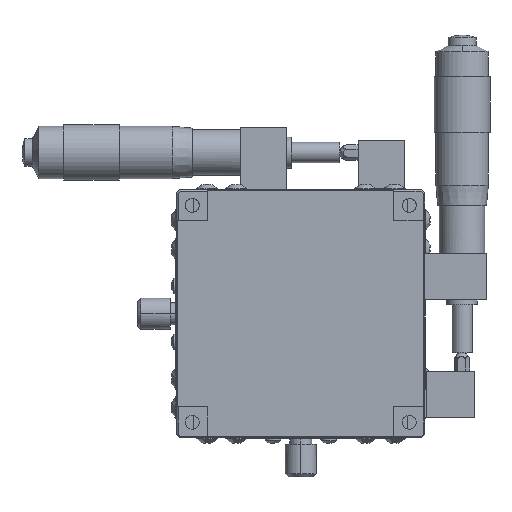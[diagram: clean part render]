
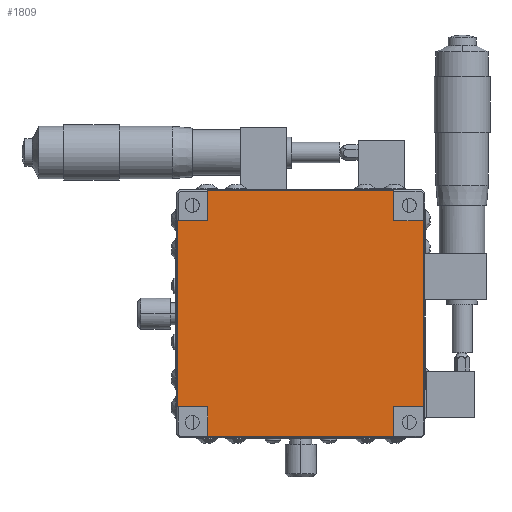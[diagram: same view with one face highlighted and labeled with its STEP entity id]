
A CAD part, front view. The second image highlights one B-rep face of the part: STEP entity #1809.
In plain terms, the highlighted planar face has unit normal (0, -1, 0).
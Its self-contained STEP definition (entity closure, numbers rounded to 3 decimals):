
#5 = VECTOR ( 'NONE', #16305, 1000. ) ;
#632 = VERTEX_POINT ( 'NONE', #6041 ) ;
#971 = CARTESIAN_POINT ( 'NONE',  ( -104.334, 14.719, -54.096 ) ) ;
#1540 = CARTESIAN_POINT ( 'NONE',  ( -104.334, 14.719, -54.096 ) ) ;
#1574 = VERTEX_POINT ( 'NONE', #16063 ) ;
#1699 = CARTESIAN_POINT ( 'NONE',  ( -104.334, 14.719, 5.904 ) ) ;
#1809 = ADVANCED_FACE ( 'NONE', ( #34643 ), #28716, .T. ) ;
#2577 = EDGE_CURVE ( 'NONE', #24614, #27254, #19207, .T. ) ;
#2659 = VERTEX_POINT ( 'NONE', #11489 ) ;
#2852 = ORIENTED_EDGE ( 'NONE', *, *, #18821, .T. ) ;
#3140 = VERTEX_POINT ( 'NONE', #14773 ) ;
#3721 = VECTOR ( 'NONE', #25117, 1000. ) ;
#3926 = DIRECTION ( 'NONE',  ( 1., 0., 0. ) ) ;
#4363 = ORIENTED_EDGE ( 'NONE', *, *, #37124, .T. ) ;
#4512 = EDGE_CURVE ( 'NONE', #23033, #32186, #35002, .T. ) ;
#4614 = LINE ( 'NONE', #15894, #12673 ) ;
#4744 = VECTOR ( 'NONE', #21874, 1000. ) ;
#5191 = EDGE_CURVE ( 'NONE', #32186, #24614, #34933, .T. ) ;
#5404 = CARTESIAN_POINT ( 'NONE',  ( -104.334, 14.719, 15.604 ) ) ;
#5477 = ORIENTED_EDGE ( 'NONE', *, *, #4512, .T. ) ;
#6041 = CARTESIAN_POINT ( 'NONE',  ( -174.034, 14.719, 5.904 ) ) ;
#6081 = VECTOR ( 'NONE', #14803, 1000. ) ;
#7585 = AXIS2_PLACEMENT_3D ( 'NONE', #8077, #8331, #11071 ) ;
#8077 = CARTESIAN_POINT ( 'NONE',  ( -104.334, 14.719, 24.412 ) ) ;
#8331 = DIRECTION ( 'NONE',  ( 0., -1., 0. ) ) ;
#8944 = CARTESIAN_POINT ( 'NONE',  ( -104.334, 14.719, -63.796 ) ) ;
#9551 = LINE ( 'NONE', #1699, #3721 ) ;
#9695 = DIRECTION ( 'NONE',  ( 0., 0., 1. ) ) ;
#10212 = ORIENTED_EDGE ( 'NONE', *, *, #24621, .T. ) ;
#11071 = DIRECTION ( 'NONE',  ( 0., 0., -1. ) ) ;
#11489 = CARTESIAN_POINT ( 'NONE',  ( -164.334, 14.719, -54.096 ) ) ;
#11616 = LINE ( 'NONE', #36108, #12509 ) ;
#11828 = DIRECTION ( 'NONE',  ( 0., 0., -1. ) ) ;
#12405 = CARTESIAN_POINT ( 'NONE',  ( -94.634, 14.719, -54.096 ) ) ;
#12489 = LINE ( 'NONE', #33606, #25238 ) ;
#12509 = VECTOR ( 'NONE', #36500, 1000. ) ;
#12643 = VECTOR ( 'NONE', #9695, 1000. ) ;
#12673 = VECTOR ( 'NONE', #30205, 1000. ) ;
#12912 = ORIENTED_EDGE ( 'NONE', *, *, #18765, .T. ) ;
#14773 = CARTESIAN_POINT ( 'NONE',  ( -174.034, 14.719, -54.096 ) ) ;
#14803 = DIRECTION ( 'NONE',  ( 0., 0., -1. ) ) ;
#14832 = CARTESIAN_POINT ( 'NONE',  ( -104.334, 14.719, -54.096 ) ) ;
#15014 = VECTOR ( 'NONE', #22038, 1000. ) ;
#15782 = CARTESIAN_POINT ( 'NONE',  ( -164.334, 14.719, 5.904 ) ) ;
#15894 = CARTESIAN_POINT ( 'NONE',  ( -104.334, 14.719, 5.904 ) ) ;
#16027 = LINE ( 'NONE', #35512, #6081 ) ;
#16041 = ORIENTED_EDGE ( 'NONE', *, *, #2577, .T. ) ;
#16063 = CARTESIAN_POINT ( 'NONE',  ( -164.334, 14.719, -63.796 ) ) ;
#16305 = DIRECTION ( 'NONE',  ( -1., 0., 0. ) ) ;
#16312 = ORIENTED_EDGE ( 'NONE', *, *, #22273, .T. ) ;
#17060 = VERTEX_POINT ( 'NONE', #1540 ) ;
#18330 = CARTESIAN_POINT ( 'NONE',  ( -94.634, 14.719, 24.412 ) ) ;
#18733 = EDGE_CURVE ( 'NONE', #632, #3140, #22982, .T. ) ;
#18765 = EDGE_CURVE ( 'NONE', #17060, #34452, #35732, .T. ) ;
#18821 = EDGE_CURVE ( 'NONE', #24151, #17060, #11616, .T. ) ;
#19207 = LINE ( 'NONE', #33390, #4744 ) ;
#19351 = VECTOR ( 'NONE', #11828, 1000. ) ;
#20961 = DIRECTION ( 'NONE',  ( 1., 0., 0. ) ) ;
#21296 = ORIENTED_EDGE ( 'NONE', *, *, #5191, .T. ) ;
#21557 = CARTESIAN_POINT ( 'NONE',  ( -104.334, 14.719, 5.904 ) ) ;
#21874 = DIRECTION ( 'NONE',  ( 0., 0., -1. ) ) ;
#22038 = DIRECTION ( 'NONE',  ( 0., 0., 1. ) ) ;
#22270 = CARTESIAN_POINT ( 'NONE',  ( -104.334, 14.719, 15.604 ) ) ;
#22273 = EDGE_CURVE ( 'NONE', #2659, #1574, #16027, .T. ) ;
#22454 = CARTESIAN_POINT ( 'NONE',  ( -94.634, 14.719, 5.904 ) ) ;
#22982 = LINE ( 'NONE', #29117, #19351 ) ;
#23033 = VERTEX_POINT ( 'NONE', #21557 ) ;
#23535 = EDGE_CURVE ( 'NONE', #3140, #2659, #29545, .T. ) ;
#24151 = VERTEX_POINT ( 'NONE', #8944 ) ;
#24245 = CARTESIAN_POINT ( 'NONE',  ( -164.334, 14.719, 15.604 ) ) ;
#24614 = VERTEX_POINT ( 'NONE', #24245 ) ;
#24621 = EDGE_CURVE ( 'NONE', #27254, #632, #4614, .T. ) ;
#25097 = DIRECTION ( 'NONE',  ( 1., 0., 0. ) ) ;
#25117 = DIRECTION ( 'NONE',  ( -1., 0., 0. ) ) ;
#25238 = VECTOR ( 'NONE', #25097, 1000. ) ;
#26180 = EDGE_CURVE ( 'NONE', #34452, #27665, #37691, .T. ) ;
#27254 = VERTEX_POINT ( 'NONE', #15782 ) ;
#27665 = VERTEX_POINT ( 'NONE', #22454 ) ;
#28716 = PLANE ( 'NONE',  #7585 ) ;
#29117 = CARTESIAN_POINT ( 'NONE',  ( -174.034, 14.719, 24.412 ) ) ;
#29545 = LINE ( 'NONE', #14832, #31354 ) ;
#30074 = ORIENTED_EDGE ( 'NONE', *, *, #23535, .T. ) ;
#30205 = DIRECTION ( 'NONE',  ( -1., 0., 0. ) ) ;
#30607 = ORIENTED_EDGE ( 'NONE', *, *, #18733, .T. ) ;
#31354 = VECTOR ( 'NONE', #20961, 1000. ) ;
#32186 = VERTEX_POINT ( 'NONE', #5404 ) ;
#32460 = EDGE_CURVE ( 'NONE', #1574, #24151, #12489, .T. ) ;
#32886 = EDGE_LOOP ( 'NONE', ( #16312, #35994, #2852, #12912, #35343, #4363, #5477, #21296, #16041, #10212, #30607, #30074 ) ) ;
#33316 = CARTESIAN_POINT ( 'NONE',  ( -104.334, 14.719, 24.412 ) ) ;
#33390 = CARTESIAN_POINT ( 'NONE',  ( -164.334, 14.719, 24.412 ) ) ;
#33606 = CARTESIAN_POINT ( 'NONE',  ( -104.334, 14.719, -63.796 ) ) ;
#33884 = VECTOR ( 'NONE', #3926, 1000. ) ;
#34452 = VERTEX_POINT ( 'NONE', #12405 ) ;
#34643 = FACE_OUTER_BOUND ( 'NONE', #32886, .T. ) ;
#34933 = LINE ( 'NONE', #22270, #5 ) ;
#35002 = LINE ( 'NONE', #33316, #15014 ) ;
#35343 = ORIENTED_EDGE ( 'NONE', *, *, #26180, .T. ) ;
#35512 = CARTESIAN_POINT ( 'NONE',  ( -164.334, 14.719, 24.412 ) ) ;
#35732 = LINE ( 'NONE', #971, #33884 ) ;
#35994 = ORIENTED_EDGE ( 'NONE', *, *, #32460, .T. ) ;
#36108 = CARTESIAN_POINT ( 'NONE',  ( -104.334, 14.719, 24.412 ) ) ;
#36500 = DIRECTION ( 'NONE',  ( 0., 0., 1. ) ) ;
#37124 = EDGE_CURVE ( 'NONE', #27665, #23033, #9551, .T. ) ;
#37691 = LINE ( 'NONE', #18330, #12643 ) ;
